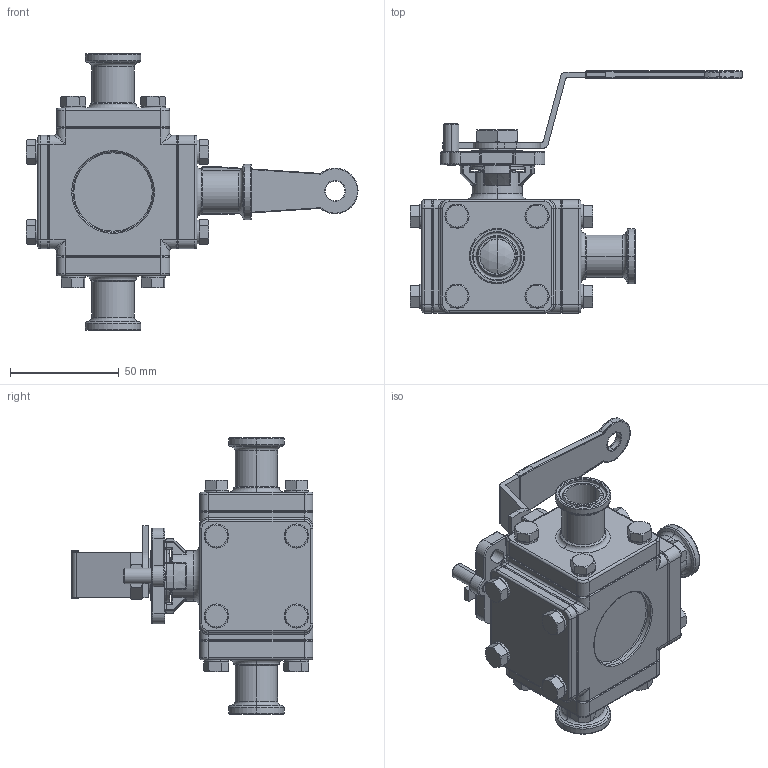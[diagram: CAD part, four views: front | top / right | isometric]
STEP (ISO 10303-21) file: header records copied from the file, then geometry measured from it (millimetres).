
FILE_DESCRIPTION (( 'STEP AP203' ), '1' );
FILE_NAME ('EG93CCC-6.75.STEP', '2019-07-02T02:24:58', ( '' ), ( '' ), 'SwSTEP 2.0', 'SolidWorks 2014', '' );
FILE_SCHEMA (( 'CONFIG_CONTROL_DESIGN' ));
Length unit declared in the file: millimetre
Products named in the file (24): 9.RING0.5-0.75; EG93CCC-6.75; 16.BOLT0.75; 12.3WAY-NUT0.5-.0.75; 13.STEM0.75; 17.LOCKING TAB0.5-0.75; 15.SPRING WASHER0.5-0.75; 22.SEAT-L-0.75; 3.3WAY-BALL-0.75-L; 20.SEAT BACK0.75; 1.3WAY-BODY0.75; 7.O-RING0.75; 22.SEAT-R-0.75; 5.GASKET0.75; 2.3WAY-CAP-C-0.75; 6.THRUST WASHER0.75; 10.BEVEL WASHER0.5-0.75; 18.THINNER NUT0.5-.0.75; 11.STOP PIN0.5-1.0; 4.SEAT1-0.75; 19.3WAY-CAP0.75; 14.HANDLE0.5-0.75; 8.STEM PACKING0.75; 21.PLAIN WASHER0.5-0.75
Assembly tree (58 placements, depth 2):
  EG93CCC-6.75
    1.3WAY-BODY0.75
    13.STEM0.75
    6.THRUST WASHER0.75
    7.O-RING0.75
    8.STEM PACKING0.75
    9.RING0.5-0.75
    3.3WAY-BALL-0.75-L
    10.BEVEL WASHER0.5-0.75  x2
    18.THINNER NUT0.5-.0.75
    17.LOCKING TAB0.5-0.75
    21.PLAIN WASHER0.5-0.75
    22.SEAT-L-0.75
    22.SEAT-R-0.75
    20.SEAT BACK0.75
    5.GASKET0.75  x2
    4.SEAT1-0.75  x2
    19.3WAY-CAP0.75
    2.3WAY-CAP-C-0.75  x3
    15.SPRING WASHER0.5-0.75  x16
    16.BOLT0.75  x16
    11.STOP PIN0.5-1.0
    12.3WAY-NUT0.5-.0.75
    14.HANDLE0.5-0.75
Bounding box: 152.5 x 111.13 x 127 mm (x, y, z)
Volume: 279428.6 mm3; surface area: 129485.2 mm2
Topology: 59 solids, 59 shells, 1534 faces, 3442 edges, 2021 vertices
Faces by surface type: cylinder 562, plane 400, cone 238, torus 227, sphere 58, bspline 49
Entity records: 34209 total; most frequent: CARTESIAN_POINT 7973, DIRECTION 5248, ORIENTED_EDGE 4486, EDGE_CURVE 2243, AXIS2_PLACEMENT_3D 2227, VERTEX_POINT 1325, CIRCLE 1226, EDGE_LOOP 1096
